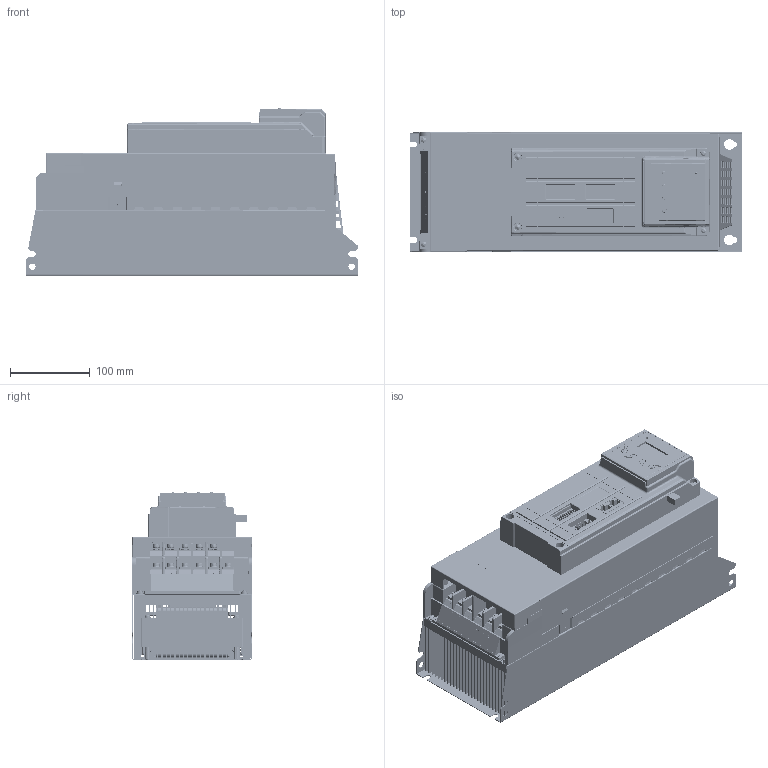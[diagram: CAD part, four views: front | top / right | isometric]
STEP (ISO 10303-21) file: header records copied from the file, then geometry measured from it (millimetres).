
FILE_DESCRIPTION(/* description */ (''),/* implementation_level */ '2;1');
FILE_NAME(/* name */ 'DS5C1-411P0-PTA+DS5C1-415P0-PTA--官网图',/* time_stamp */ '2021-10-12T14:26:48+08:00',/* author */ (''),/* organization */ (''),/* preprocessor_version */ 'ST-DEVELOPER v15',/* originating_system */ '',/* authorisation */ '');
FILE_SCHEMA (('AUTOMOTIVE_DESIGN'));
Products named in the file (1): Document
Bounding box: 417 x 150.59 x 209.8 mm (x, y, z)
Surface area: 2163645.5 mm2 (no closed solid volume)
Topology: 0 solids, 20890 shells, 20894 faces, 117439 edges, 117324 vertices
Faces by surface type: bspline 12928, plane 7966
Entity records: 1405813 total; most frequent: CARTESIAN_POINT 810935, ORIENTED_EDGE 117345, EDGE_CURVE 117337, VERTEX_POINT 117320, B_SPLINE_CURVE_WITH_KNOTS 88398, EDGE_LOOP 22016, ADVANCED_FACE 20894, FACE_OUTER_BOUND 20894
